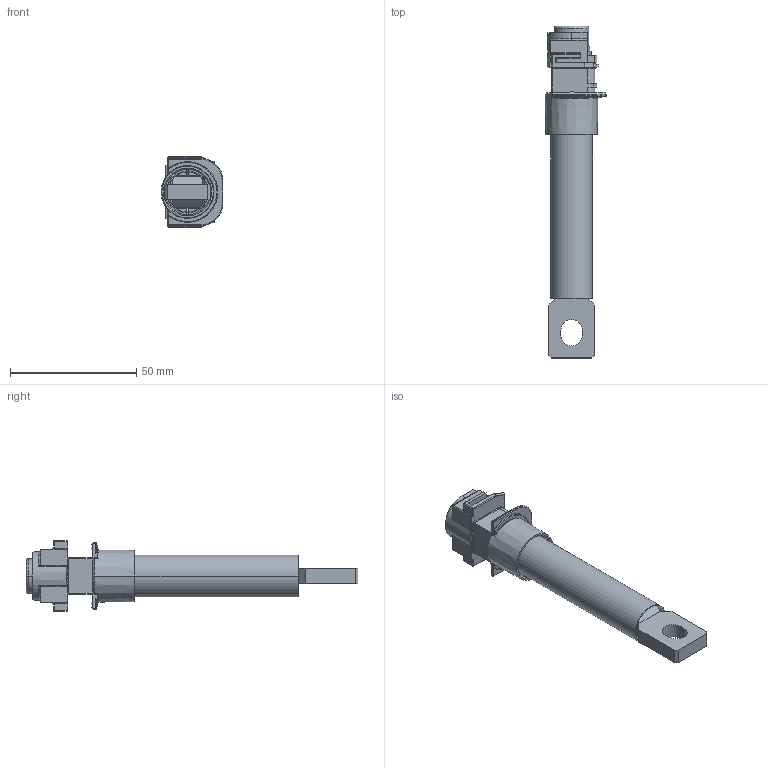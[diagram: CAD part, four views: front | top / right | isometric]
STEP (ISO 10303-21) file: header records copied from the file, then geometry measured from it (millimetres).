
FILE_DESCRIPTION(/* description */ (''),/* implementation_level */ '2;1');
FILE_NAME(/* name */ '21.5 L REAR CONDUCTOR ASSY.stp',/* time_stamp */ '2020-06-16T16:58:24+09:00',/* author */ (''),/* organization */ (''),/* preprocessor_version */ 'ST-DEVELOPER v16',/* originating_system */ 'SIEMENS PLM Software NX 11.0',/* authorisation */ '');
FILE_SCHEMA (('AP203_CONFIGURATION_CONTROLLED_3D_DESIGN_OF_MECHANICAL_PARTS_AND_ASSEMBLIES_MIM_LF { 1 0 10303 403 2 1 2}'));
Length unit declared in the file: millimetre
Products named in the file (1): 21.5 L REAR CONDUCTOR ASSY
Bounding box: 24.49 x 131.6 x 28 mm (x, y, z)
Volume: 23401 mm3; surface area: 21806.3 mm2
Topology: 5 solids, 5 shells, 350 faces, 870 edges, 533 vertices
Faces by surface type: plane 163, cylinder 106, torus 23, cone 22, sphere 20, bspline 16
Entity records: 11040 total; most frequent: CARTESIAN_POINT 2650, ORIENTED_EDGE 1732, DIRECTION 1729, EDGE_CURVE 866, AXIS2_PLACEMENT_3D 606, VERTEX_POINT 533, LINE 517, VECTOR 517
